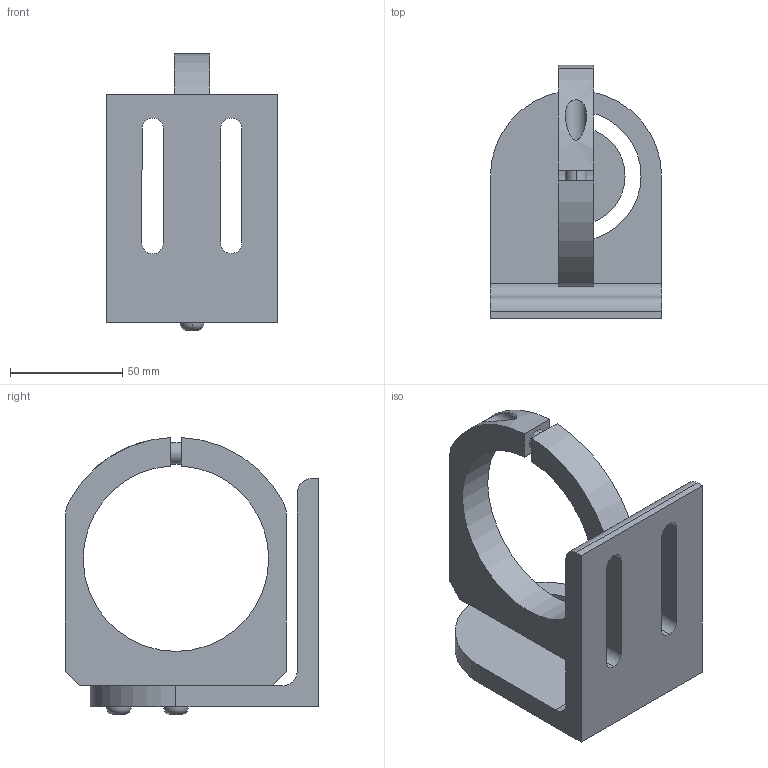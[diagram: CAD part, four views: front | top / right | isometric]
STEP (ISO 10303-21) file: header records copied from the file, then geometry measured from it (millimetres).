
FILE_DESCRIPTION (( 'STEP AP203' ), '1' );
FILE_NAME ('A-202-006.STEP', '2009-06-16T18:00:03', ( 'ANDREW' ), ( 'SIMONDS INC' ), 'SwSTEP 2.0', 'SolidWorks 2009', '' );
FILE_SCHEMA (( 'CONFIG_CONTROL_DESIGN' ));
Length unit declared in the file: inch
Products named in the file (5): A-200-1-1; A-200-1-006; A-202-006; A-200-1-5; A-202-2-1
Assembly tree (5 placements, depth 2):
  A-202-006
    A-202-2-1  x2
    A-200-1-5
    A-200-1-1
    A-200-1-006
Bounding box: 76.2 x 112.7 x 123.29 mm (x, y, z)
Volume: 188813.7 mm3; surface area: 56659.5 mm2
Topology: 5 solids, 5 shells, 230 faces, 506 edges, 292 vertices
Faces by surface type: cone 122, plane 54, cylinder 48, torus 6
Entity records: 5517 total; most frequent: DIRECTION 938, CARTESIAN_POINT 892, ORIENTED_EDGE 784, EDGE_CURVE 392, AXIS2_PLACEMENT_3D 362, VERTEX_POINT 234, VECTOR 214, LINE 214
